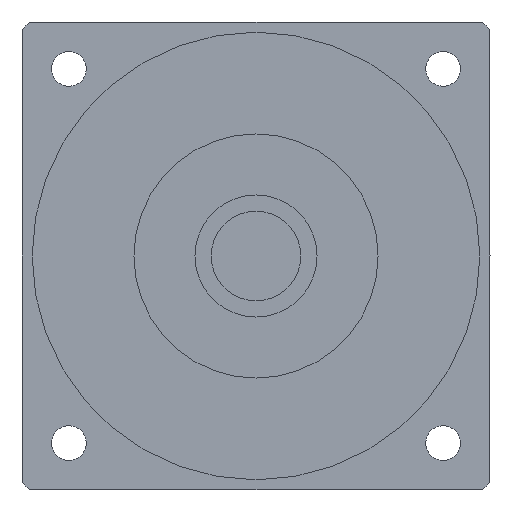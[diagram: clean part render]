
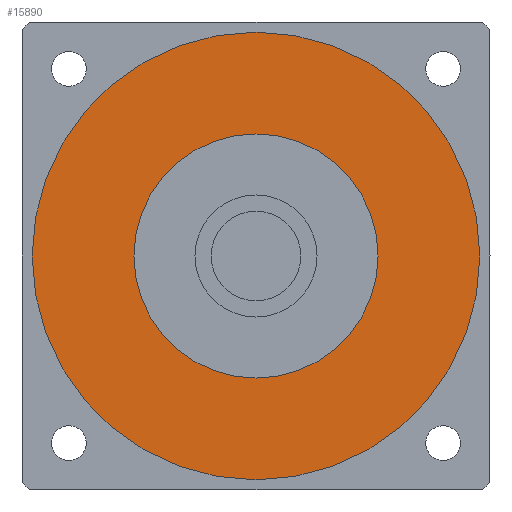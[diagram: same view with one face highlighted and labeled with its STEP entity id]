
A CAD part, left-side view. The second image highlights one B-rep face of the part: STEP entity #15890.
In plain terms, the highlighted planar face has unit normal (-1, 0, 0) as drawn and (0, 0, -1) by its records, which use the part's own axes.
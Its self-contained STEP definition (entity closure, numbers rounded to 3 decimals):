
#15310=CARTESIAN_POINT('',(55.,0.,-61.9));
#15320=VERTEX_POINT('',#15310);
#15410=CARTESIAN_POINT('',(-55.,0.,-61.9));
#15420=VERTEX_POINT('',#15410);
#15450=CARTESIAN_POINT('',(0.,0.,
-61.9));
#15460=DIRECTION('',(0.,0.,1.));
#15470=DIRECTION('',(0.,1.,0.));
#15480=AXIS2_PLACEMENT_3D('',#15450,#15460,#15470);
#15490=CIRCLE('',#15480,55.);
#15500=CARTESIAN_POINT('',(0.,55.,-61.9));
#15510=VERTEX_POINT('',#15500);
#15520=EDGE_CURVE('',#15510,#15420,#15490,.T.);
#15540=EDGE_CURVE('',#15320,#15510,#15490,.T.);
#15590=CARTESIAN_POINT('',(0.,0.,
-61.9));
#15600=DIRECTION('',(0.,0.,1.));
#15610=DIRECTION('',(-1.,0.,0.));
#15620=AXIS2_PLACEMENT_3D('',#15590,#15600,#15610);
#15630=PLANE('',#15620);
#15640=ORIENTED_EDGE('',*,*,#15520,.F.);
#15650=EDGE_CURVE('',#15420,#15320,#15490,.T.);
#15660=ORIENTED_EDGE('',*,*,#15650,.F.);
#15670=ORIENTED_EDGE('',*,*,#15540,.F.);
#15680=EDGE_LOOP('',(#15670,#15660,#15640));
#15690=FACE_OUTER_BOUND('',#15680,.T.);
#15700=CARTESIAN_POINT('',(0.,0.,
-61.9));
#15710=DIRECTION('',(0.,0.,1.));
#15720=DIRECTION('',(0.,1.,0.));
#15730=AXIS2_PLACEMENT_3D('',#15700,#15710,#15720);
#15740=CIRCLE('',#15730,30.);
#15750=CARTESIAN_POINT('',(-30.,0.,-61.9));
#15760=VERTEX_POINT('',#15750);
#15770=CARTESIAN_POINT('',(30.,0.,-61.9));
#15780=VERTEX_POINT('',#15770);
#15790=EDGE_CURVE('',#15760,#15780,#15740,.T.);
#15800=ORIENTED_EDGE('',*,*,#15790,.T.);
#15810=CARTESIAN_POINT('',(0.,30.,-61.9));
#15820=VERTEX_POINT('',#15810);
#15830=EDGE_CURVE('',#15820,#15760,#15740,.T.);
#15840=ORIENTED_EDGE('',*,*,#15830,.T.);
#15850=EDGE_CURVE('',#15780,#15820,#15740,.T.);
#15860=ORIENTED_EDGE('',*,*,#15850,.T.);
#15870=EDGE_LOOP('',(#15860,#15840,#15800));
#15880=FACE_BOUND('',#15870,.T.);
#15890=ADVANCED_FACE('',(#15690,#15880),#15630,.F.);
